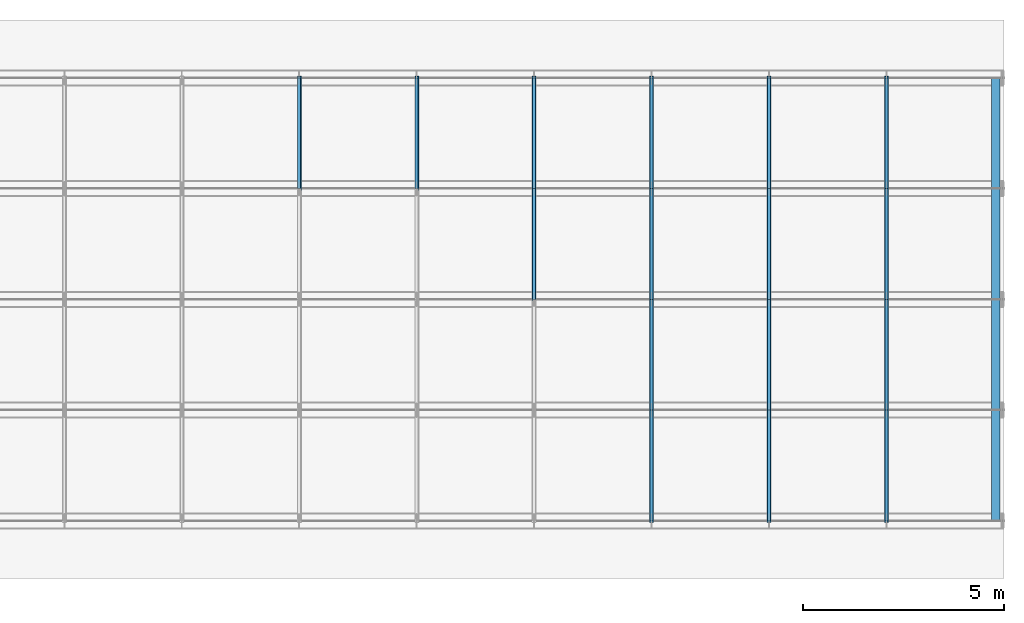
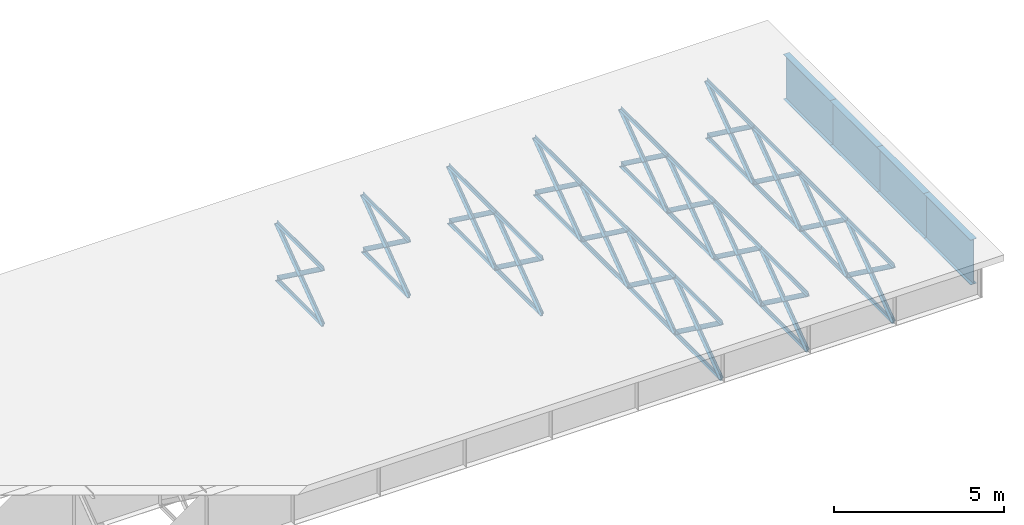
# One storey, part 2 of 17: 68 members.
"""IFC4 building model written with IfcOpenShell, lengths in metres."""

from ifc_helpers import new_model, si_unit, frame, origin, origin_with_axes, origin_2d_with_axis, place, context, subcontext, project, spatial, i_section, l_section, extrude, element, save


model = new_model("IFC4")

# Units and contexts
model_context = context("Model", 3, precision=1e-05, world=origin())
body_context = subcontext(model_context, "Body", "Model", "MODEL_VIEW")
ifc_project = project(units=[si_unit("LENGTHUNIT", "METRE"), si_unit("AREAUNIT", "SQUARE_METRE"), si_unit("VOLUMEUNIT", "CUBIC_METRE"), si_unit("PLANEANGLEUNIT", "RADIAN")], contexts=[model_context])

# Site, building, storey
site_placement = place(None, origin_with_axes())
site = spatial("IfcSite", under=ifc_project, at=site_placement, Name="Default Site")
building_placement = place(site_placement, origin_with_axes())
building = spatial("IfcBuilding", under=site, at=building_placement, Name="Bridge Structure")
storey_placement = place(building_placement, origin_with_axes())
storey = spatial("IfcBuildingStorey", under=building, at=storey_placement, Name="Superstructure")

# Members
for number, where, z_axis, x_axis, name in (
    (1, (17.5, 2.75, 1.007), (0.0, 0.806777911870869, -0.590854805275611), (-1.0, 0.0, 0.0), "Diagonal Brace"),
    (2, (17.5, 2.75, -1.007), (0.0, 0.806777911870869, 0.590854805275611), (-1.0, 0.0, 0.0), "Diagonal Brace"),
):
    element("IfcMember", number, at=place(storey_placement, frame(where, z_axis=z_axis, x_axis=x_axis)), inside=storey, Name=name, context=body_context, shape_type="SweptSolid", body=[
        extrude(l_section(Depth=0.151, Width=0.1, Thickness=0.008, at=origin_2d_with_axis()), origin_with_axes(), (0.0, 0.0, 1.0), 3.4086208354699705),
    ])
for number, where, z_axis, x_axis, name in (
    (3, (17.5, 2.75, -1.007), (0.0, 1.0, 0.0), (-1.0, 0.0, 0.0), "Bottom Chord"),
    (4, (17.5, 2.75, 1.007), (0.0, 1.0, 0.0), (-1.0, 0.0, 0.0), "Top Chord"),
):
    element("IfcMember", number, at=place(storey_placement, frame(where, z_axis=z_axis, x_axis=x_axis)), inside=storey, Name=name, context=body_context, shape_type="SweptSolid", body=[
        extrude(l_section(Depth=0.13, Width=0.08, Thickness=0.008, at=origin_2d_with_axis()), origin_with_axes(), (0.0, 0.0, 1.0), 2.75),
    ])
for number, where, z_axis, x_axis, name in (
    (5, (20.416666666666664, 2.75, 1.007), (0.0, 0.806777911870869, -0.590854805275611), (-1.0, 0.0, 0.0), "Diagonal Brace"),
    (6, (20.416666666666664, 2.75, -1.007), (0.0, 0.806777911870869, 0.590854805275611), (-1.0, 0.0, 0.0), "Diagonal Brace"),
):
    element("IfcMember", number, at=place(storey_placement, frame(where, z_axis=z_axis, x_axis=x_axis)), inside=storey, Name=name, context=body_context, shape_type="SweptSolid", body=[
        extrude(l_section(Depth=0.151, Width=0.1, Thickness=0.008, at=origin_2d_with_axis()), origin_with_axes(), (0.0, 0.0, 1.0), 3.4086208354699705),
    ])
for number, where, z_axis, x_axis, name in (
    (7, (20.416666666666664, 2.75, -1.007), (0.0, 1.0, 0.0), (-1.0, 0.0, 0.0), "Bottom Chord"),
    (8, (20.416666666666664, 2.75, 1.007), (0.0, 1.0, 0.0), (-1.0, 0.0, 0.0), "Top Chord"),
):
    element("IfcMember", number, at=place(storey_placement, frame(where, z_axis=z_axis, x_axis=x_axis)), inside=storey, Name=name, context=body_context, shape_type="SweptSolid", body=[
        extrude(l_section(Depth=0.13, Width=0.08, Thickness=0.008, at=origin_2d_with_axis()), origin_with_axes(), (0.0, 0.0, 1.0), 2.75),
    ])
for number, where, z_axis, x_axis, name in (
    (9, (23.333333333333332, 0.0, 1.007), (0.0, 0.806777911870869, -0.590854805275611), (-1.0, 0.0, 0.0), "Diagonal Brace"),
    (10, (23.333333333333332, 0.0, -1.007), (0.0, 0.806777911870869, 0.590854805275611), (-1.0, 0.0, 0.0), "Diagonal Brace"),
):
    element("IfcMember", number, at=place(storey_placement, frame(where, z_axis=z_axis, x_axis=x_axis)), inside=storey, Name=name, context=body_context, shape_type="SweptSolid", body=[
        extrude(l_section(Depth=0.151, Width=0.1, Thickness=0.008, at=origin_2d_with_axis()), origin_with_axes(), (0.0, 0.0, 1.0), 3.4086208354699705),
    ])
for number, where, z_axis, x_axis, name in (
    (11, (23.333333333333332, 0.0, -1.007), (0.0, 1.0, 0.0), (-1.0, 0.0, 0.0), "Bottom Chord"),
    (12, (23.333333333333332, 0.0, 1.007), (0.0, 1.0, 0.0), (-1.0, 0.0, 0.0), "Top Chord"),
):
    element("IfcMember", number, at=place(storey_placement, frame(where, z_axis=z_axis, x_axis=x_axis)), inside=storey, Name=name, context=body_context, shape_type="SweptSolid", body=[
        extrude(l_section(Depth=0.13, Width=0.08, Thickness=0.008, at=origin_2d_with_axis()), origin_with_axes(), (0.0, 0.0, 1.0), 2.75),
    ])
for number, where, z_axis, x_axis, name in (
    (13, (23.333333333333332, 2.75, 1.007), (0.0, 0.806777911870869, -0.590854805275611), (-1.0, 0.0, 0.0), "Diagonal Brace"),
    (14, (23.333333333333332, 2.75, -1.007), (0.0, 0.806777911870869, 0.590854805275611), (-1.0, 0.0, 0.0), "Diagonal Brace"),
):
    element("IfcMember", number, at=place(storey_placement, frame(where, z_axis=z_axis, x_axis=x_axis)), inside=storey, Name=name, context=body_context, shape_type="SweptSolid", body=[
        extrude(l_section(Depth=0.151, Width=0.1, Thickness=0.008, at=origin_2d_with_axis()), origin_with_axes(), (0.0, 0.0, 1.0), 3.4086208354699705),
    ])
for number, where, z_axis, x_axis, name in (
    (15, (23.333333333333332, 2.75, -1.007), (0.0, 1.0, 0.0), (-1.0, 0.0, 0.0), "Bottom Chord"),
    (16, (23.333333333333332, 2.75, 1.007), (0.0, 1.0, 0.0), (-1.0, 0.0, 0.0), "Top Chord"),
):
    element("IfcMember", number, at=place(storey_placement, frame(where, z_axis=z_axis, x_axis=x_axis)), inside=storey, Name=name, context=body_context, shape_type="SweptSolid", body=[
        extrude(l_section(Depth=0.13, Width=0.08, Thickness=0.008, at=origin_2d_with_axis()), origin_with_axes(), (0.0, 0.0, 1.0), 2.75),
    ])
for number, where, z_axis, x_axis, name in (
    (17, (26.25, -5.5, 1.007), (0.0, 0.806777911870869, -0.590854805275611), (-1.0, 0.0, 0.0), "Diagonal Brace"),
    (18, (26.25, -5.5, -1.007), (0.0, 0.806777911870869, 0.590854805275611), (-1.0, 0.0, 0.0), "Diagonal Brace"),
):
    element("IfcMember", number, at=place(storey_placement, frame(where, z_axis=z_axis, x_axis=x_axis)), inside=storey, Name=name, context=body_context, shape_type="SweptSolid", body=[
        extrude(l_section(Depth=0.151, Width=0.1, Thickness=0.008, at=origin_2d_with_axis()), origin_with_axes(), (0.0, 0.0, 1.0), 3.4086208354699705),
    ])
for number, where, z_axis, x_axis, name in (
    (19, (26.25, -5.5, -1.007), (0.0, 1.0, 0.0), (-1.0, 0.0, 0.0), "Bottom Chord"),
    (20, (26.25, -5.5, 1.007), (0.0, 1.0, 0.0), (-1.0, 0.0, 0.0), "Top Chord"),
):
    element("IfcMember", number, at=place(storey_placement, frame(where, z_axis=z_axis, x_axis=x_axis)), inside=storey, Name=name, context=body_context, shape_type="SweptSolid", body=[
        extrude(l_section(Depth=0.13, Width=0.08, Thickness=0.008, at=origin_2d_with_axis()), origin_with_axes(), (0.0, 0.0, 1.0), 2.75),
    ])
for number, where, z_axis, x_axis, name in (
    (21, (26.25, -2.75, 1.007), (0.0, 0.806777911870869, -0.590854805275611), (-1.0, 0.0, 0.0), "Diagonal Brace"),
    (22, (26.25, -2.75, -1.007), (0.0, 0.806777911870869, 0.590854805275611), (-1.0, 0.0, 0.0), "Diagonal Brace"),
):
    element("IfcMember", number, at=place(storey_placement, frame(where, z_axis=z_axis, x_axis=x_axis)), inside=storey, Name=name, context=body_context, shape_type="SweptSolid", body=[
        extrude(l_section(Depth=0.151, Width=0.1, Thickness=0.008, at=origin_2d_with_axis()), origin_with_axes(), (0.0, 0.0, 1.0), 3.4086208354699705),
    ])
for number, where, z_axis, x_axis, name in (
    (23, (26.25, -2.75, -1.007), (0.0, 1.0, 0.0), (-1.0, 0.0, 0.0), "Bottom Chord"),
    (24, (26.25, -2.75, 1.007), (0.0, 1.0, 0.0), (-1.0, 0.0, 0.0), "Top Chord"),
):
    element("IfcMember", number, at=place(storey_placement, frame(where, z_axis=z_axis, x_axis=x_axis)), inside=storey, Name=name, context=body_context, shape_type="SweptSolid", body=[
        extrude(l_section(Depth=0.13, Width=0.08, Thickness=0.008, at=origin_2d_with_axis()), origin_with_axes(), (0.0, 0.0, 1.0), 2.75),
    ])
for number, where, z_axis, x_axis, name in (
    (25, (26.25, 0.0, 1.007), (0.0, 0.806777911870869, -0.590854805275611), (-1.0, 0.0, 0.0), "Diagonal Brace"),
    (26, (26.25, 0.0, -1.007), (0.0, 0.806777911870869, 0.590854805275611), (-1.0, 0.0, 0.0), "Diagonal Brace"),
):
    element("IfcMember", number, at=place(storey_placement, frame(where, z_axis=z_axis, x_axis=x_axis)), inside=storey, Name=name, context=body_context, shape_type="SweptSolid", body=[
        extrude(l_section(Depth=0.151, Width=0.1, Thickness=0.008, at=origin_2d_with_axis()), origin_with_axes(), (0.0, 0.0, 1.0), 3.4086208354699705),
    ])
for number, where, z_axis, x_axis, name in (
    (27, (26.25, 0.0, -1.007), (0.0, 1.0, 0.0), (-1.0, 0.0, 0.0), "Bottom Chord"),
    (28, (26.25, 0.0, 1.007), (0.0, 1.0, 0.0), (-1.0, 0.0, 0.0), "Top Chord"),
):
    element("IfcMember", number, at=place(storey_placement, frame(where, z_axis=z_axis, x_axis=x_axis)), inside=storey, Name=name, context=body_context, shape_type="SweptSolid", body=[
        extrude(l_section(Depth=0.13, Width=0.08, Thickness=0.008, at=origin_2d_with_axis()), origin_with_axes(), (0.0, 0.0, 1.0), 2.75),
    ])
for number, where, z_axis, x_axis, name in (
    (29, (26.25, 2.75, 1.007), (0.0, 0.806777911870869, -0.590854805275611), (-1.0, 0.0, 0.0), "Diagonal Brace"),
    (30, (26.25, 2.75, -1.007), (0.0, 0.806777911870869, 0.590854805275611), (-1.0, 0.0, 0.0), "Diagonal Brace"),
):
    element("IfcMember", number, at=place(storey_placement, frame(where, z_axis=z_axis, x_axis=x_axis)), inside=storey, Name=name, context=body_context, shape_type="SweptSolid", body=[
        extrude(l_section(Depth=0.151, Width=0.1, Thickness=0.008, at=origin_2d_with_axis()), origin_with_axes(), (0.0, 0.0, 1.0), 3.4086208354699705),
    ])
for number, where, z_axis, x_axis, name in (
    (31, (26.25, 2.75, -1.007), (0.0, 1.0, 0.0), (-1.0, 0.0, 0.0), "Bottom Chord"),
    (32, (26.25, 2.75, 1.007), (0.0, 1.0, 0.0), (-1.0, 0.0, 0.0), "Top Chord"),
):
    element("IfcMember", number, at=place(storey_placement, frame(where, z_axis=z_axis, x_axis=x_axis)), inside=storey, Name=name, context=body_context, shape_type="SweptSolid", body=[
        extrude(l_section(Depth=0.13, Width=0.08, Thickness=0.008, at=origin_2d_with_axis()), origin_with_axes(), (0.0, 0.0, 1.0), 2.75),
    ])
for number, where, z_axis, x_axis, name in (
    (33, (29.166666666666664, -5.5, 1.007), (0.0, 0.806777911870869, -0.590854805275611), (-1.0, 0.0, 0.0), "Diagonal Brace"),
    (34, (29.166666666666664, -5.5, -1.007), (0.0, 0.806777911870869, 0.590854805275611), (-1.0, 0.0, 0.0), "Diagonal Brace"),
):
    element("IfcMember", number, at=place(storey_placement, frame(where, z_axis=z_axis, x_axis=x_axis)), inside=storey, Name=name, context=body_context, shape_type="SweptSolid", body=[
        extrude(l_section(Depth=0.151, Width=0.1, Thickness=0.008, at=origin_2d_with_axis()), origin_with_axes(), (0.0, 0.0, 1.0), 3.4086208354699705),
    ])
for number, where, z_axis, x_axis, name in (
    (35, (29.166666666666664, -5.5, -1.007), (0.0, 1.0, 0.0), (-1.0, 0.0, 0.0), "Bottom Chord"),
    (36, (29.166666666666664, -5.5, 1.007), (0.0, 1.0, 0.0), (-1.0, 0.0, 0.0), "Top Chord"),
):
    element("IfcMember", number, at=place(storey_placement, frame(where, z_axis=z_axis, x_axis=x_axis)), inside=storey, Name=name, context=body_context, shape_type="SweptSolid", body=[
        extrude(l_section(Depth=0.13, Width=0.08, Thickness=0.008, at=origin_2d_with_axis()), origin_with_axes(), (0.0, 0.0, 1.0), 2.75),
    ])
for number, where, z_axis, x_axis, name in (
    (37, (29.166666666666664, -2.75, 1.007), (0.0, 0.806777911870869, -0.590854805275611), (-1.0, 0.0, 0.0), "Diagonal Brace"),
    (38, (29.166666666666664, -2.75, -1.007), (0.0, 0.806777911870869, 0.590854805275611), (-1.0, 0.0, 0.0), "Diagonal Brace"),
):
    element("IfcMember", number, at=place(storey_placement, frame(where, z_axis=z_axis, x_axis=x_axis)), inside=storey, Name=name, context=body_context, shape_type="SweptSolid", body=[
        extrude(l_section(Depth=0.151, Width=0.1, Thickness=0.008, at=origin_2d_with_axis()), origin_with_axes(), (0.0, 0.0, 1.0), 3.4086208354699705),
    ])
for number, where, z_axis, x_axis, name in (
    (39, (29.166666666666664, -2.75, -1.007), (0.0, 1.0, 0.0), (-1.0, 0.0, 0.0), "Bottom Chord"),
    (40, (29.166666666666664, -2.75, 1.007), (0.0, 1.0, 0.0), (-1.0, 0.0, 0.0), "Top Chord"),
):
    element("IfcMember", number, at=place(storey_placement, frame(where, z_axis=z_axis, x_axis=x_axis)), inside=storey, Name=name, context=body_context, shape_type="SweptSolid", body=[
        extrude(l_section(Depth=0.13, Width=0.08, Thickness=0.008, at=origin_2d_with_axis()), origin_with_axes(), (0.0, 0.0, 1.0), 2.75),
    ])
for number, where, z_axis, x_axis, name in (
    (41, (29.166666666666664, 0.0, 1.007), (0.0, 0.806777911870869, -0.590854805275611), (-1.0, 0.0, 0.0), "Diagonal Brace"),
    (42, (29.166666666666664, 0.0, -1.007), (0.0, 0.806777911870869, 0.590854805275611), (-1.0, 0.0, 0.0), "Diagonal Brace"),
):
    element("IfcMember", number, at=place(storey_placement, frame(where, z_axis=z_axis, x_axis=x_axis)), inside=storey, Name=name, context=body_context, shape_type="SweptSolid", body=[
        extrude(l_section(Depth=0.151, Width=0.1, Thickness=0.008, at=origin_2d_with_axis()), origin_with_axes(), (0.0, 0.0, 1.0), 3.4086208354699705),
    ])
for number, where, z_axis, x_axis, name in (
    (43, (29.166666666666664, 0.0, -1.007), (0.0, 1.0, 0.0), (-1.0, 0.0, 0.0), "Bottom Chord"),
    (44, (29.166666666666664, 0.0, 1.007), (0.0, 1.0, 0.0), (-1.0, 0.0, 0.0), "Top Chord"),
):
    element("IfcMember", number, at=place(storey_placement, frame(where, z_axis=z_axis, x_axis=x_axis)), inside=storey, Name=name, context=body_context, shape_type="SweptSolid", body=[
        extrude(l_section(Depth=0.13, Width=0.08, Thickness=0.008, at=origin_2d_with_axis()), origin_with_axes(), (0.0, 0.0, 1.0), 2.75),
    ])
for number, where, z_axis, x_axis, name in (
    (45, (29.166666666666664, 2.75, 1.007), (0.0, 0.806777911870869, -0.590854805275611), (-1.0, 0.0, 0.0), "Diagonal Brace"),
    (46, (29.166666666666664, 2.75, -1.007), (0.0, 0.806777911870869, 0.590854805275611), (-1.0, 0.0, 0.0), "Diagonal Brace"),
):
    element("IfcMember", number, at=place(storey_placement, frame(where, z_axis=z_axis, x_axis=x_axis)), inside=storey, Name=name, context=body_context, shape_type="SweptSolid", body=[
        extrude(l_section(Depth=0.151, Width=0.1, Thickness=0.008, at=origin_2d_with_axis()), origin_with_axes(), (0.0, 0.0, 1.0), 3.4086208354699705),
    ])
for number, where, z_axis, x_axis, name in (
    (47, (29.166666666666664, 2.75, -1.007), (0.0, 1.0, 0.0), (-1.0, 0.0, 0.0), "Bottom Chord"),
    (48, (29.166666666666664, 2.75, 1.007), (0.0, 1.0, 0.0), (-1.0, 0.0, 0.0), "Top Chord"),
):
    element("IfcMember", number, at=place(storey_placement, frame(where, z_axis=z_axis, x_axis=x_axis)), inside=storey, Name=name, context=body_context, shape_type="SweptSolid", body=[
        extrude(l_section(Depth=0.13, Width=0.08, Thickness=0.008, at=origin_2d_with_axis()), origin_with_axes(), (0.0, 0.0, 1.0), 2.75),
    ])
for number, where, z_axis, x_axis, name in (
    (49, (32.083333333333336, -5.5, 1.007), (0.0, 0.806777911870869, -0.590854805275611), (-1.0, 0.0, 0.0), "Diagonal Brace"),
    (50, (32.083333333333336, -5.5, -1.007), (0.0, 0.806777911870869, 0.590854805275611), (-1.0, 0.0, 0.0), "Diagonal Brace"),
):
    element("IfcMember", number, at=place(storey_placement, frame(where, z_axis=z_axis, x_axis=x_axis)), inside=storey, Name=name, context=body_context, shape_type="SweptSolid", body=[
        extrude(l_section(Depth=0.151, Width=0.1, Thickness=0.008, at=origin_2d_with_axis()), origin_with_axes(), (0.0, 0.0, 1.0), 3.4086208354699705),
    ])
for number, where, z_axis, x_axis, name in (
    (51, (32.083333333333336, -5.5, -1.007), (0.0, 1.0, 0.0), (-1.0, 0.0, 0.0), "Bottom Chord"),
    (52, (32.083333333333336, -5.5, 1.007), (0.0, 1.0, 0.0), (-1.0, 0.0, 0.0), "Top Chord"),
):
    element("IfcMember", number, at=place(storey_placement, frame(where, z_axis=z_axis, x_axis=x_axis)), inside=storey, Name=name, context=body_context, shape_type="SweptSolid", body=[
        extrude(l_section(Depth=0.13, Width=0.08, Thickness=0.008, at=origin_2d_with_axis()), origin_with_axes(), (0.0, 0.0, 1.0), 2.75),
    ])
for number, where, z_axis, x_axis, name in (
    (53, (32.083333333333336, -2.75, 1.007), (0.0, 0.806777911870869, -0.590854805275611), (-1.0, 0.0, 0.0), "Diagonal Brace"),
    (54, (32.083333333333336, -2.75, -1.007), (0.0, 0.806777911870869, 0.590854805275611), (-1.0, 0.0, 0.0), "Diagonal Brace"),
):
    element("IfcMember", number, at=place(storey_placement, frame(where, z_axis=z_axis, x_axis=x_axis)), inside=storey, Name=name, context=body_context, shape_type="SweptSolid", body=[
        extrude(l_section(Depth=0.151, Width=0.1, Thickness=0.008, at=origin_2d_with_axis()), origin_with_axes(), (0.0, 0.0, 1.0), 3.4086208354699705),
    ])
for number, where, z_axis, x_axis, name in (
    (55, (32.083333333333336, -2.75, -1.007), (0.0, 1.0, 0.0), (-1.0, 0.0, 0.0), "Bottom Chord"),
    (56, (32.083333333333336, -2.75, 1.007), (0.0, 1.0, 0.0), (-1.0, 0.0, 0.0), "Top Chord"),
):
    element("IfcMember", number, at=place(storey_placement, frame(where, z_axis=z_axis, x_axis=x_axis)), inside=storey, Name=name, context=body_context, shape_type="SweptSolid", body=[
        extrude(l_section(Depth=0.13, Width=0.08, Thickness=0.008, at=origin_2d_with_axis()), origin_with_axes(), (0.0, 0.0, 1.0), 2.75),
    ])
for number, where, z_axis, x_axis, name in (
    (57, (32.083333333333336, 0.0, 1.007), (0.0, 0.806777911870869, -0.590854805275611), (-1.0, 0.0, 0.0), "Diagonal Brace"),
    (58, (32.083333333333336, 0.0, -1.007), (0.0, 0.806777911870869, 0.590854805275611), (-1.0, 0.0, 0.0), "Diagonal Brace"),
):
    element("IfcMember", number, at=place(storey_placement, frame(where, z_axis=z_axis, x_axis=x_axis)), inside=storey, Name=name, context=body_context, shape_type="SweptSolid", body=[
        extrude(l_section(Depth=0.151, Width=0.1, Thickness=0.008, at=origin_2d_with_axis()), origin_with_axes(), (0.0, 0.0, 1.0), 3.4086208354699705),
    ])
for number, where, z_axis, x_axis, name in (
    (59, (32.083333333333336, 0.0, -1.007), (0.0, 1.0, 0.0), (-1.0, 0.0, 0.0), "Bottom Chord"),
    (60, (32.083333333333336, 0.0, 1.007), (0.0, 1.0, 0.0), (-1.0, 0.0, 0.0), "Top Chord"),
):
    element("IfcMember", number, at=place(storey_placement, frame(where, z_axis=z_axis, x_axis=x_axis)), inside=storey, Name=name, context=body_context, shape_type="SweptSolid", body=[
        extrude(l_section(Depth=0.13, Width=0.08, Thickness=0.008, at=origin_2d_with_axis()), origin_with_axes(), (0.0, 0.0, 1.0), 2.75),
    ])
for number, where, z_axis, x_axis, name in (
    (61, (32.083333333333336, 2.75, 1.007), (0.0, 0.806777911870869, -0.590854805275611), (-1.0, 0.0, 0.0), "Diagonal Brace"),
    (62, (32.083333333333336, 2.75, -1.007), (0.0, 0.806777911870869, 0.590854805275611), (-1.0, 0.0, 0.0), "Diagonal Brace"),
):
    element("IfcMember", number, at=place(storey_placement, frame(where, z_axis=z_axis, x_axis=x_axis)), inside=storey, Name=name, context=body_context, shape_type="SweptSolid", body=[
        extrude(l_section(Depth=0.151, Width=0.1, Thickness=0.008, at=origin_2d_with_axis()), origin_with_axes(), (0.0, 0.0, 1.0), 3.4086208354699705),
    ])
for number, where, z_axis, x_axis, name in (
    (63, (32.083333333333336, 2.75, -1.007), (0.0, 1.0, 0.0), (-1.0, 0.0, 0.0), "Bottom Chord"),
    (64, (32.083333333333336, 2.75, 1.007), (0.0, 1.0, 0.0), (-1.0, 0.0, 0.0), "Top Chord"),
):
    element("IfcMember", number, at=place(storey_placement, frame(where, z_axis=z_axis, x_axis=x_axis)), inside=storey, Name=name, context=body_context, shape_type="SweptSolid", body=[
        extrude(l_section(Depth=0.13, Width=0.08, Thickness=0.008, at=origin_2d_with_axis()), origin_with_axes(), (0.0, 0.0, 1.0), 2.75),
    ])
for number, where, z_axis, x_axis, name in (
    (65, (34.800000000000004, -5.5, 0.2014999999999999), (0.0, 1.0, 0.0), (-1.0, 0.0, 0.0), "End Diaphragm"),
    (66, (34.800000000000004, -2.75, 0.2014999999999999), (0.0, 1.0, 0.0), (-1.0, 0.0, 0.0), "End Diaphragm"),
    (67, (34.800000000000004, 0.0, 0.2014999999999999), (0.0, 1.0, 0.0), (-1.0, 0.0, 0.0), "End Diaphragm"),
    (68, (34.800000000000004, 2.75, 0.2014999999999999), (0.0, 1.0, 0.0), (-1.0, 0.0, 0.0), "End Diaphragm"),
):
    element("IfcMember", number, at=place(storey_placement, frame(where, z_axis=z_axis, x_axis=x_axis)), inside=storey, Name=name, context=body_context, shape_type="SweptSolid", body=[
        extrude(i_section(OverallWidth=0.21, OverallDepth=1.611, WebThickness=0.014, FlangeThickness=0.012, at=origin_2d_with_axis()), origin_with_axes(), (0.0, 0.0, 1.0), 2.75),
    ])

save(model, "model.ifc")
